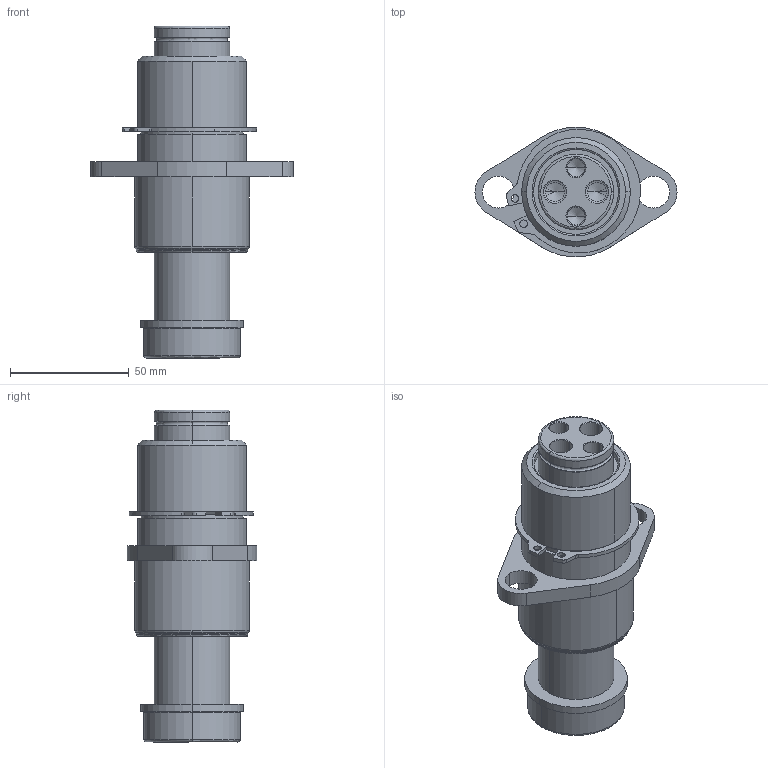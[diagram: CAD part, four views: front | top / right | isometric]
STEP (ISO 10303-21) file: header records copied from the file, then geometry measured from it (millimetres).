
FILE_DESCRIPTION (( 'STEP AP214' ), '1' );
FILE_NAME ('GK120-N3-2-TB-E-XXX.STEP', '2020-09-21T16:04:42', ( '' ), ( '' ), 'SwSTEP 2.0', 'SolidWorks 2017', '' );
FILE_SCHEMA (( 'AUTOMOTIVE_DESIGN' ));
Length unit declared in the file: inch
Products named in the file (7): RetainingRing; GK1.25-N3-2-TB-Base; GK120-E-XXX-GuidePin; GK120-N3-2-TB-E-XXX; GK120-DampeningWasher
Assembly tree (6 placements, depth 3):
  GK120-N3-2-TB-E-XXX
    GK1.25-N3-2-TB-Base
      GK1.25-N3-2-TB-Base
      RetainingRing
    GK120-E-XXX-GuidePin
      GK120-E-XXX-GuidePin
      GK120-DampeningWasher
Bounding box: 85.09 x 54.52 x 139.7 mm (x, y, z)
Volume: 195579.9 mm3; surface area: 48557.4 mm2
Topology: 4 solids, 4 shells, 135 faces, 317 edges, 192 vertices
Faces by surface type: cylinder 61, cone 30, plane 24, bspline 20
Entity records: 4525 total; most frequent: CARTESIAN_POINT 977, DIRECTION 729, ORIENTED_EDGE 618, EDGE_CURVE 309, AXIS2_PLACEMENT_3D 304, VERTEX_POINT 192, CIRCLE 178, EDGE_LOOP 157
